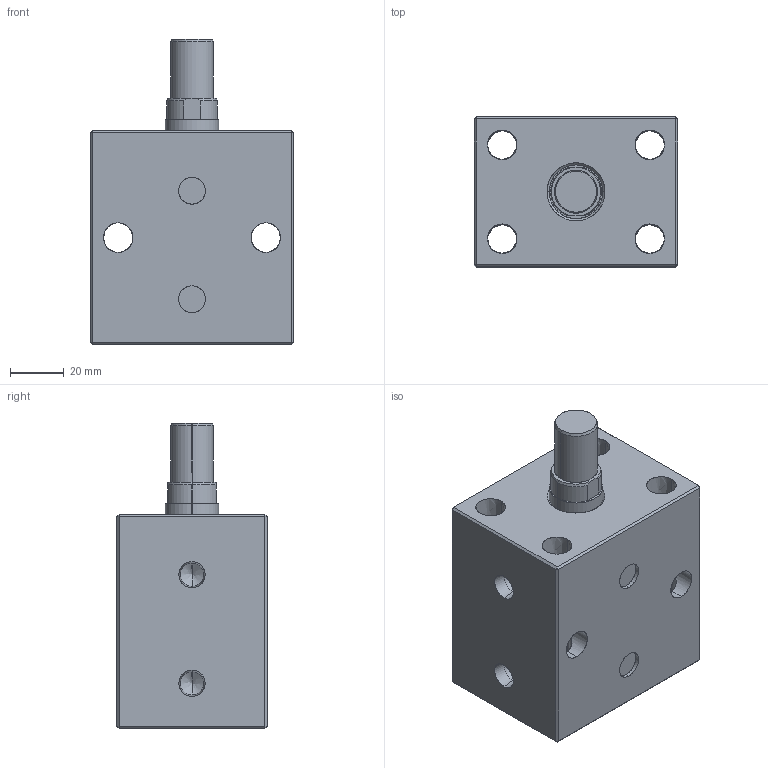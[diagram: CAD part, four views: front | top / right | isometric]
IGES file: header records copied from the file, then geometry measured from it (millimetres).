
Start section: SolidWorks IGES file using analytic representation for surfaces
Global section: file name: E:\ALL-SSVT-BLOCK\32-bore-igs model\BC04-32-25-M.IGS; native system: SolidWorks 2019; preprocessor: SolidWorks 2019; author: SSVT; date: 210825.125821; units: millimetre
Bounding box: 76 x 56 x 114 mm (x, y, z)
Surface area: 51227.9 mm2 (no closed solid volume)
Topology: 0 solids, 0 shells, 95 faces, 1728 edges, 1724 vertices
Faces by surface type: revolution 60, bspline 35
